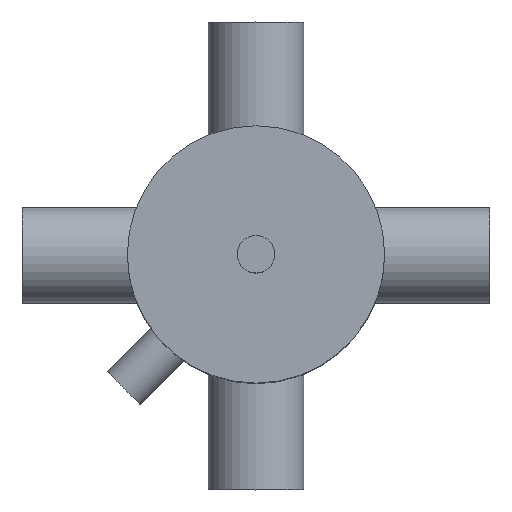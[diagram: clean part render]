
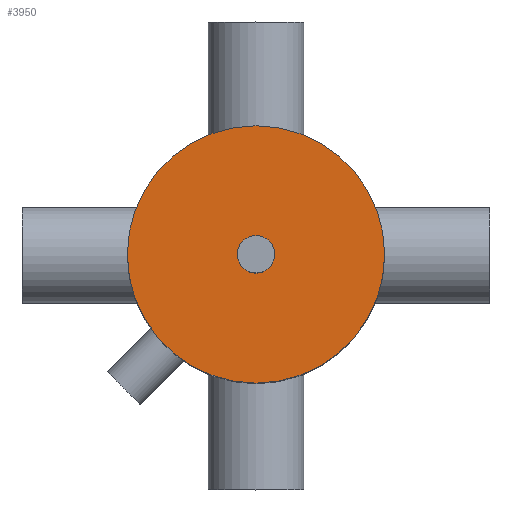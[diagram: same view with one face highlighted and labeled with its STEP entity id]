
A CAD part, top view. The second image highlights one B-rep face of the part: STEP entity #3950.
In plain terms, the highlighted planar face has unit normal (0, 0, 1).
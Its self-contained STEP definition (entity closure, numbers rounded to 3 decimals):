
#3866 = CYLINDRICAL_SURFACE('',#3867,55.);
#3867 = AXIS2_PLACEMENT_3D('',#3868,#3869,#3870);
#3868 = CARTESIAN_POINT('',(0.,0.,158.));
#3869 = DIRECTION('',(0.,0.,1.));
#3870 = DIRECTION('',(1.,0.,0.));
#3899 = EDGE_CURVE('',#3900,#3900,#3902,.T.);
#3900 = VERTEX_POINT('',#3901);
#3901 = CARTESIAN_POINT('',(55.,0.,306.));
#3902 = SURFACE_CURVE('',#3903,(#3908,#3915),.PCURVE_S1.);
#3903 = CIRCLE('',#3904,55.);
#3904 = AXIS2_PLACEMENT_3D('',#3905,#3906,#3907);
#3905 = CARTESIAN_POINT('',(0.,0.,306.));
#3906 = DIRECTION('',(0.,0.,1.));
#3907 = DIRECTION('',(1.,0.,0.));
#3908 = PCURVE('',#3866,#3909);
#3909 = DEFINITIONAL_REPRESENTATION('',(#3910),#3914);
#3910 = LINE('',#3911,#3912);
#3911 = CARTESIAN_POINT('',(0.,148.));
#3912 = VECTOR('',#3913,1.);
#3913 = DIRECTION('',(1.,0.));
#3914 = ( GEOMETRIC_REPRESENTATION_CONTEXT(2) 
PARAMETRIC_REPRESENTATION_CONTEXT() REPRESENTATION_CONTEXT('2D SPACE',''
  ) );
#3915 = PCURVE('',#3916,#3921);
#3916 = PLANE('',#3917);
#3917 = AXIS2_PLACEMENT_3D('',#3918,#3919,#3920);
#3918 = CARTESIAN_POINT('',(0.,0.,306.));
#3919 = DIRECTION('',(0.,0.,1.));
#3920 = DIRECTION('',(1.,0.,0.));
#3921 = DEFINITIONAL_REPRESENTATION('',(#3922),#3926);
#3922 = CIRCLE('',#3923,55.);
#3923 = AXIS2_PLACEMENT_2D('',#3924,#3925);
#3924 = CARTESIAN_POINT('',(0.,0.));
#3925 = DIRECTION('',(1.,0.));
#3926 = ( GEOMETRIC_REPRESENTATION_CONTEXT(2) 
PARAMETRIC_REPRESENTATION_CONTEXT() REPRESENTATION_CONTEXT('2D SPACE',''
  ) );
#3950 = ADVANCED_FACE('',(#3951,#3954),#3916,.T.);
#3951 = FACE_BOUND('',#3952,.T.);
#3952 = EDGE_LOOP('',(#3953));
#3953 = ORIENTED_EDGE('',*,*,#3899,.T.);
#3954 = FACE_BOUND('',#3955,.T.);
#3955 = EDGE_LOOP('',(#3956));
#3956 = ORIENTED_EDGE('',*,*,#3957,.F.);
#3957 = EDGE_CURVE('',#3958,#3958,#3960,.T.);
#3958 = VERTEX_POINT('',#3959);
#3959 = CARTESIAN_POINT('',(8.,0.,306.));
#3960 = SURFACE_CURVE('',#3961,(#3966,#3973),.PCURVE_S1.);
#3961 = CIRCLE('',#3962,8.);
#3962 = AXIS2_PLACEMENT_3D('',#3963,#3964,#3965);
#3963 = CARTESIAN_POINT('',(0.,0.,306.));
#3964 = DIRECTION('',(0.,0.,1.));
#3965 = DIRECTION('',(1.,0.,-0.));
#3966 = PCURVE('',#3916,#3967);
#3967 = DEFINITIONAL_REPRESENTATION('',(#3968),#3972);
#3968 = CIRCLE('',#3969,8.);
#3969 = AXIS2_PLACEMENT_2D('',#3970,#3971);
#3970 = CARTESIAN_POINT('',(0.,0.));
#3971 = DIRECTION('',(1.,0.));
#3972 = ( GEOMETRIC_REPRESENTATION_CONTEXT(2) 
PARAMETRIC_REPRESENTATION_CONTEXT() REPRESENTATION_CONTEXT('2D SPACE',''
  ) );
#3973 = PCURVE('',#3974,#3979);
#3974 = CYLINDRICAL_SURFACE('',#3975,8.);
#3975 = AXIS2_PLACEMENT_3D('',#3976,#3977,#3978);
#3976 = CARTESIAN_POINT('',(0.,0.,36.));
#3977 = DIRECTION('',(0.,0.,1.));
#3978 = DIRECTION('',(1.,0.,0.));
#3979 = DEFINITIONAL_REPRESENTATION('',(#3980),#3984);
#3980 = LINE('',#3981,#3982);
#3981 = CARTESIAN_POINT('',(0.,270.));
#3982 = VECTOR('',#3983,1.);
#3983 = DIRECTION('',(1.,0.));
#3984 = ( GEOMETRIC_REPRESENTATION_CONTEXT(2) 
PARAMETRIC_REPRESENTATION_CONTEXT() REPRESENTATION_CONTEXT('2D SPACE',''
  ) );
